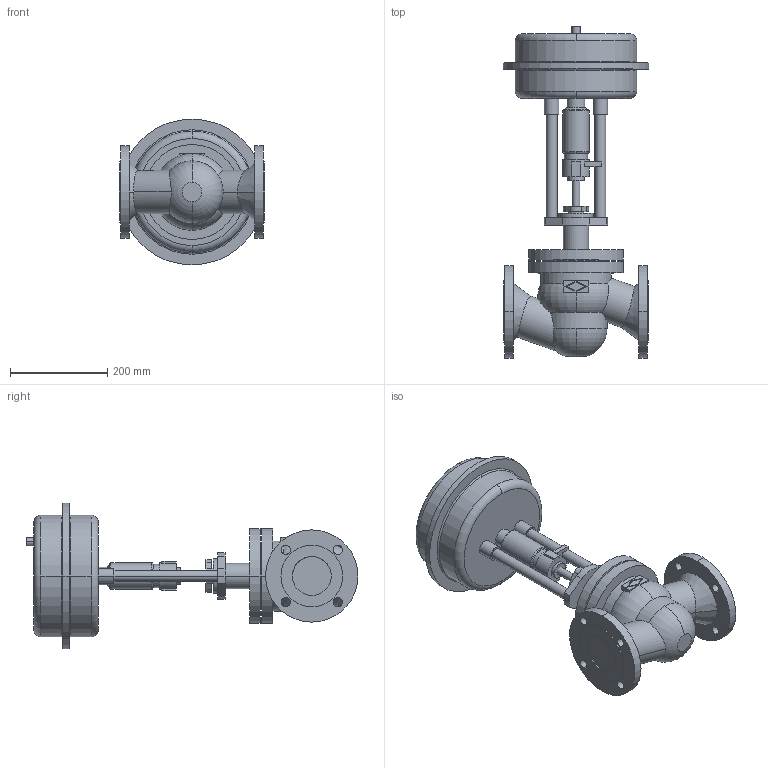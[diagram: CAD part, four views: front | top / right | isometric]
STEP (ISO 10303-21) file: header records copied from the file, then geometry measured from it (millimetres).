
FILE_DESCRIPTION( ( '' ), '1' );
FILE_NAME( 'F:/DE-SHS/TB/OR/04-Sonstiges/daten/files_3d/470-471_ANSI/470_ANSI150/c000005814.stp', '2015-10-22T06:36:32', ( '' ), ( '' ), ' ', ' ', ' ' );
FILE_SCHEMA( ( 'CONFIG_CONTROL_DESIGN' ) );
Length unit declared in the file: millimetre
Products named in the file (2): 1; 2
Bounding box: 300 x 683 x 300 mm (x, y, z)
Volume: 13362393.9 mm3; surface area: 675515.9 mm2
Topology: 2 solids, 2 shells, 186 faces, 468 edges, 313 vertices
Faces by surface type: cylinder 86, plane 71, torus 21, cone 8
Entity records: 6406 total; most frequent: CARTESIAN_POINT 1579, DIRECTION 1082, ORIENTED_EDGE 936, EDGE_CURVE 468, AXIS2_PLACEMENT_3D 444, VERTEX_POINT 313, CIRCLE 256, EDGE_LOOP 229
